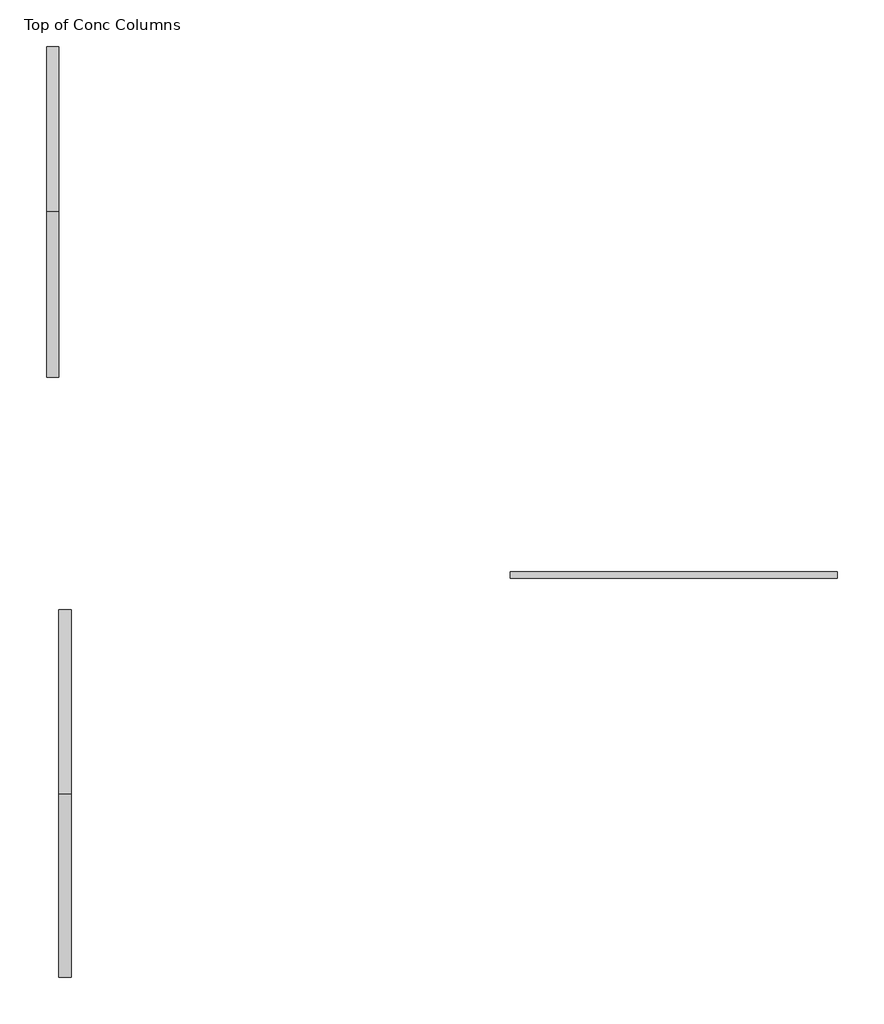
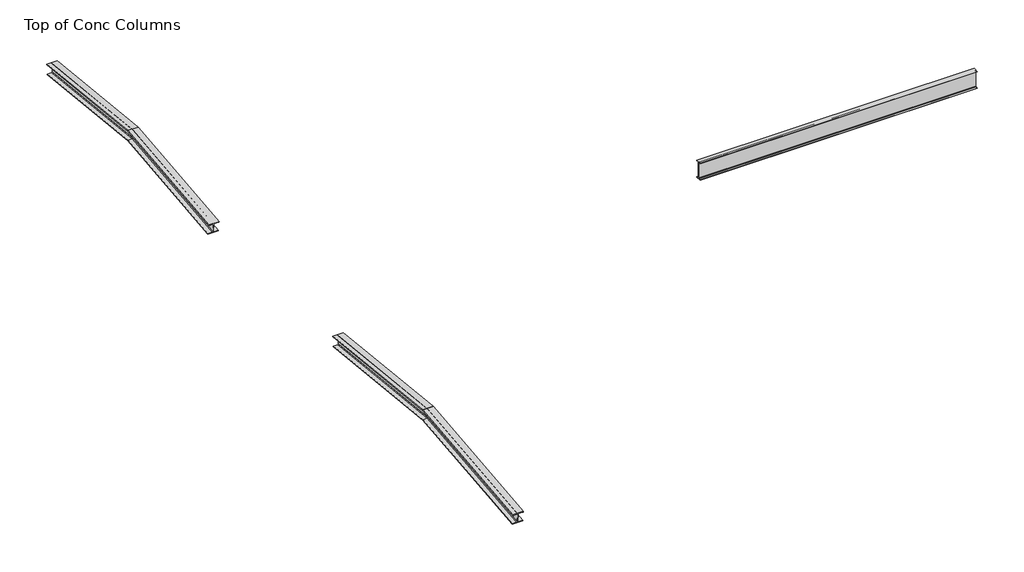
# One storey: 5 beams.
"""IFC4 building model written with IfcOpenShell, lengths in millimetres."""

from ifc_helpers import new_model, si_unit, frame, origin, place, context, project, spatial, polyline, circle_curve, ellipse_curve, transform, mapped, element, save
from ifc_brep_helpers import plane_surface, revolved_surface, advanced_brep
from components import w_wide_flange_w21x44_ac43757c

model = new_model("IFC4")

# Units and contexts
model_context = context("Model", 3, world=origin())
ifc_project = project(units=[si_unit("LENGTHUNIT", "METRE", prefix="MILLI")], contexts=[model_context])

# Site, building, storey
site = spatial("IfcSite", under=ifc_project)
building = spatial("IfcBuilding", under=site)
storey = spatial("IfcBuildingStorey", under=building, Name="Top of Conc Columns", Elevation=33782.0)

# Beams
placement = place(None, origin())
element("IfcBeam", 1, ObjectType="W-Wide Flange : W12X79", at=placement, inside=storey, context=model_context, shape_type="AdvancedBrep", body=[
    advanced_brep(
    [(-21755.4154607, 20969.2190095, 33178.8039345), (-21630.3204607, 20969.2190095, 33178.8039345), (-21607.7144607, 20971.5967656, 33201.2845375), (-21607.7144607, 20996.0422355, 33432.4053438), (-21630.3204607, 20998.4199915, 33454.8859468), (-21755.4154607, 20998.4199915, 33454.8859468), (-21755.4154607, 21000.383644, 33473.4513887), (-21448.0754607, 21000.383644, 33473.4513887), (-21448.0754607, 20998.4199915, 33454.8859468), (-21573.1704607, 20998.4199915, 33454.8859468), (-21595.7764607, 20996.0422355, 33432.4053438), (-21595.7764607, 20971.5967656, 33201.2845375), (-21573.1704607, 20969.2190095, 33178.8039345), (-21448.0754607, 20969.2190095, 33178.8039345), (-21448.0754607, 20967.255357, 33160.2384927), (-21755.4154607, 20967.255357, 33160.2384927), (-21755.4154607, 16882.4695005, 33611.0562864), (-21630.3204607, 16882.4695005, 33611.0562864), (-21607.7144607, 16882.4695005, 33633.7883829), (-21607.7144607, 16882.4695005, 33867.4947677), (-21630.3204607, 16882.4695005, 33890.2268642), (-21755.4154607, 16882.4695005, 33890.2268642), (-21755.4154607, 16882.4695005, 33909.0), (-21448.0754607, 16882.4695005, 33909.0), (-21448.0754607, 16882.4695005, 33890.2268642), (-21573.1704607, 16882.4695005, 33890.2268642), (-21595.7764607, 16882.4695005, 33867.4947677), (-21595.7764607, 16882.4695005, 33633.7883829), (-21573.1704607, 16882.4695005, 33611.0562864), (-21448.0754607, 16882.4695005, 33611.0562864), (-21448.0754607, 16882.4695005, 33592.2831506), (-21755.4154607, 16882.4695005, 33592.2831506)],
    [
        (0, 1),
        (1, 2, circle_curve(frame((-21630.3204607, 20971.5967656, 33201.2845375), z_axis=(0.0, -0.9944529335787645, 0.10518252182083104), x_axis=(1.0, 0.0, 0.0)), 22.606)),
        (2, 3),
        (3, 4, circle_curve(frame((-21630.3204607, 20996.0422355, 33432.4053438), z_axis=(0.0, -0.9944529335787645, 0.10518252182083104), x_axis=(1.0, 0.0, 0.0)), 22.606)),
        (4, 5),
        (5, 6),
        (6, 7),
        (7, 8),
        (8, 9),
        (9, 10, circle_curve(frame((-21573.1704607, 20996.0422355, 33432.4053438), z_axis=(0.0, -0.9944529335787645, 0.10518252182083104), x_axis=(1.0, 0.0, 0.0)), 22.606)),
        (10, 11),
        (11, 12, circle_curve(frame((-21573.1704607, 20971.5967656, 33201.2845375), z_axis=(0.0, -0.9944529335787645, 0.10518252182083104), x_axis=(1.0, 0.0, 0.0)), 22.606)),
        (12, 13),
        (13, 14),
        (14, 15),
        (15, 0),
        (0, 16),
        (16, 17),
        (17, 1),
        (17, 18, ellipse_curve(frame((-21630.3204607, 16882.4695005, 33633.7883829), z_axis=(0.0, -1.0, 0.0), x_axis=(0.0, 0.0, 0.9999999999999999)), 22.7320964, 22.606)),
        (18, 2),
        (18, 19),
        (19, 3),
        (19, 20, ellipse_curve(frame((-21630.3204607, 16882.4695005, 33867.4947677), z_axis=(0.0, -1.0, 0.0), x_axis=(0.0, 0.0, 0.9999999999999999)), 22.7320964, 22.606)),
        (20, 4),
        (20, 21),
        (21, 5),
        (21, 22),
        (22, 6),
        (22, 23),
        (23, 7),
        (23, 24),
        (24, 8),
        (24, 25),
        (25, 9),
        (25, 26, ellipse_curve(frame((-21573.1704607, 16882.4695005, 33867.4947677), z_axis=(0.0, -1.0, 0.0), x_axis=(0.0, 0.0, 0.9999999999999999)), 22.7320964, 22.606)),
        (26, 10),
        (26, 27),
        (27, 11),
        (27, 28, ellipse_curve(frame((-21573.1704607, 16882.4695005, 33633.7883829), z_axis=(0.0, -1.0, 0.0), x_axis=(0.0, 0.0, 0.9999999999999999)), 22.7320964, 22.606)),
        (28, 12),
        (28, 29),
        (29, 13),
        (29, 30),
        (30, 14),
        (30, 31),
        (31, 15),
        (31, 16),
    ],
    [
        plane_surface(frame((-21601.7454607, 20983.8195005, 33316.8449407), z_axis=(0.0, 0.9944529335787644, -0.10518252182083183), x_axis=(0.0, 0.10518252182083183, 0.9944529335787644))),
        plane_surface(frame((-21755.4154607, 20969.2190095, 33178.8039345), z_axis=(0.0, 0.10518252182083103, 0.9944529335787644), x_axis=(0.0, -0.9944529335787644, 0.10518252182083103))),
        revolved_surface(polyline([(-21607.7144607, 16880.091744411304, 33634.03987627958), (-21607.7144607, 20971.5967656, 33201.2845375)]), (-21630.3204607, 20971.5967656, 33201.2845375), (0.0, -0.9944529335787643, 0.10518252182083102)),
        plane_surface(frame((-21607.7144607, 20971.5967656, 33201.2845375), z_axis=(-1.0, 0.0, 0.0), x_axis=(0.0, -0.9944529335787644, 0.10518252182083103))),
        revolved_surface(polyline([(-21607.7144607, 16880.09174440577, 33867.74626112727), (-21607.7144607, 20996.0422355, 33432.4053438)]), (-21630.3204607, 20996.0422355, 33432.4053438), (0.0, -0.9944529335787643, 0.10518252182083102)),
        plane_surface(frame((-21630.3204607, 20998.4199915, 33454.8859468), z_axis=(0.0, -0.10518252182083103, -0.9944529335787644), x_axis=(0.0, -0.9944529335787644, 0.10518252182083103))),
        plane_surface(frame((-21755.4154607, 20998.4199915, 33454.8859468), z_axis=(-1.0, 0.0, 0.0), x_axis=(0.0, -0.9944529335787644, 0.10518252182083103))),
        plane_surface(frame((-21755.4154607, 21000.383644, 33473.4513887), z_axis=(0.0, 0.10518252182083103, 0.9944529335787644), x_axis=(0.0, -0.9944529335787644, 0.10518252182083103))),
        plane_surface(frame((-21448.0754607, 21000.383644, 33473.4513887), z_axis=(1.0, 0.0, 0.0), x_axis=(0.0, -0.9944529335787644, 0.10518252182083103))),
        plane_surface(frame((-21448.0754607, 20998.4199915, 33454.8859468), z_axis=(0.0, -0.10518252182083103, -0.9944529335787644), x_axis=(0.0, -0.9944529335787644, 0.10518252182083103))),
        revolved_surface(polyline([(-21550.5644607, 16880.09174440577, 33867.74626112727), (-21550.5644607, 20996.0422355, 33432.4053438)]), (-21573.1704607, 20996.0422355, 33432.4053438), (0.0, -0.9944529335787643, 0.10518252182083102)),
        plane_surface(frame((-21595.7764607, 20996.0422355, 33432.4053438), z_axis=(1.0, 0.0, 0.0), x_axis=(0.0, -0.9944529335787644, 0.10518252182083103))),
        revolved_surface(polyline([(-21550.5644607, 16880.091744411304, 33634.03987627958), (-21550.5644607, 20971.5967656, 33201.2845375)]), (-21573.1704607, 20971.5967656, 33201.2845375), (0.0, -0.9944529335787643, 0.10518252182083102)),
        plane_surface(frame((-21573.1704607, 20969.2190095, 33178.8039345), z_axis=(0.0, 0.10518252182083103, 0.9944529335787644), x_axis=(0.0, -0.9944529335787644, 0.10518252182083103))),
        plane_surface(frame((-21448.0754607, 20969.2190095, 33178.8039345), z_axis=(1.0, 0.0, 0.0), x_axis=(0.0, -0.9944529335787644, 0.10518252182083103))),
        plane_surface(frame((-21448.0754607, 20967.255357, 33160.2384927), z_axis=(0.0, -0.10518252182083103, -0.9944529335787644), x_axis=(0.0, -0.9944529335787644, 0.10518252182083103))),
        plane_surface(frame((-21755.4154607, 20967.255357, 33160.2384927), z_axis=(-1.0, 0.0, 0.0), x_axis=(0.0, -0.9944529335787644, 0.10518252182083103))),
        plane_surface(frame((-21601.7454607, 16882.4695005, 33592.2831506), z_axis=(0.0, -1.0, 0.0), x_axis=(0.0, 0.0, 1.0))),
    ],
    [
        (0, [[1, 2, 3, 4, 5, 6, 7, 8, 9, 10, 11, 12, 13, 14, 15, 16]]),
        (1, [[-1, 17, 18, 19]]),
        (2, [[-2, -19, 20, 21]]),
        (3, [[-3, -21, 22, 23]]),
        (4, [[-4, -23, 24, 25]]),
        (5, [[-5, -25, 26, 27]]),
        (6, [[-6, -27, 28, 29]]),
        (7, [[-7, -29, 30, 31]]),
        (8, [[-8, -31, 32, 33]]),
        (9, [[-9, -33, 34, 35]]),
        (10, [[-10, -35, 36, 37]]),
        (11, [[-11, -37, 38, 39]]),
        (12, [[-12, -39, 40, 41]]),
        (13, [[-13, -41, 42, 43]]),
        (14, [[-14, -43, 44, 45]]),
        (15, [[-15, -45, 46, 47]]),
        (16, [[-16, -47, 48, -17]]),
        (17, [[-48, -46, -44, -42, -40, -38, -36, -34, -32, -30, -28, -26, -24, -22, -20, -18]]),
    ],
),
])
element("IfcBeam", 2, ObjectType="W-Wide Flange : W12X79", at=placement, inside=storey, context=model_context, shape_type="AdvancedBrep", body=[
    advanced_brep(
    [(-21755.4154607, 12795.7199915, 33178.8039345), (-21755.4154607, 12797.683644, 33160.2384927), (-21448.0754607, 12797.683644, 33160.2384927), (-21448.0754607, 12795.7199915, 33178.8039345), (-21573.1704607, 12795.7199915, 33178.8039345), (-21595.7764607, 12793.3422355, 33201.2845375), (-21595.7764607, 12768.8967656, 33432.4053438), (-21573.1704607, 12766.5190095, 33454.8859468), (-21448.0754607, 12766.5190095, 33454.8859468), (-21448.0754607, 12764.555357, 33473.4513887), (-21755.4154607, 12764.555357, 33473.4513887), (-21755.4154607, 12766.5190095, 33454.8859468), (-21630.3204607, 12766.5190095, 33454.8859468), (-21607.7144607, 12768.8967656, 33432.4053438), (-21607.7144607, 12793.3422355, 33201.2845375), (-21630.3204607, 12795.7199915, 33178.8039345), (-21630.3204607, 16882.4695005, 33611.0562864), (-21755.4154607, 16882.4695005, 33611.0562864), (-21607.7144607, 16882.4695005, 33633.7883829), (-21607.7144607, 16882.4695005, 33867.4947677), (-21630.3204607, 16882.4695005, 33890.2268642), (-21755.4154607, 16882.4695005, 33890.2268642), (-21755.4154607, 16882.4695005, 33909.0), (-21448.0754607, 16882.4695005, 33909.0), (-21448.0754607, 16882.4695005, 33890.2268642), (-21573.1704607, 16882.4695005, 33890.2268642), (-21595.7764607, 16882.4695005, 33867.4947677), (-21595.7764607, 16882.4695005, 33633.7883829), (-21573.1704607, 16882.4695005, 33611.0562864), (-21448.0754607, 16882.4695005, 33611.0562864), (-21448.0754607, 16882.4695005, 33592.2831506), (-21755.4154607, 16882.4695005, 33592.2831506)],
    [
        (0, 1),
        (1, 2),
        (2, 3),
        (3, 4),
        (4, 5, circle_curve(frame((-21573.1704607, 12793.3422355, 33201.2845375), z_axis=(0.0, 0.9944529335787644, 0.10518252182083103), x_axis=(1.0, 0.0, 0.0)), 22.606)),
        (5, 6),
        (6, 7, circle_curve(frame((-21573.1704607, 12768.8967656, 33432.4053438), z_axis=(0.0, 0.9944529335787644, 0.10518252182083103), x_axis=(1.0, 0.0, 0.0)), 22.606)),
        (7, 8),
        (8, 9),
        (9, 10),
        (10, 11),
        (11, 12),
        (12, 13, circle_curve(frame((-21630.3204607, 12768.8967656, 33432.4053438), z_axis=(0.0, 0.9944529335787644, 0.10518252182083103), x_axis=(1.0, 0.0, 0.0)), 22.606)),
        (13, 14),
        (14, 15, circle_curve(frame((-21630.3204607, 12793.3422355, 33201.2845375), z_axis=(0.0, 0.9944529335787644, 0.10518252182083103), x_axis=(1.0, 0.0, 0.0)), 22.606)),
        (15, 0),
        (15, 16),
        (16, 17),
        (17, 0),
        (14, 18),
        (18, 16, ellipse_curve(frame((-21630.3204607, 16882.4695005, 33633.7883829), z_axis=(0.0, 1.0, 0.0), x_axis=(0.0, 0.0, 1.0)), 22.7320964, 22.606)),
        (13, 19),
        (19, 18),
        (12, 20),
        (20, 19, ellipse_curve(frame((-21630.3204607, 16882.4695005, 33867.4947677), z_axis=(0.0, 1.0, 0.0), x_axis=(0.0, 0.0, 1.0)), 22.7320964, 22.606)),
        (11, 21),
        (21, 20),
        (10, 22),
        (22, 21),
        (9, 23),
        (23, 22),
        (8, 24),
        (24, 23),
        (7, 25),
        (25, 24),
        (6, 26),
        (26, 25, ellipse_curve(frame((-21573.1704607, 16882.4695005, 33867.4947677), z_axis=(0.0, 1.0, 0.0), x_axis=(0.0, 0.0, 1.0)), 22.7320964, 22.606)),
        (5, 27),
        (27, 26),
        (4, 28),
        (28, 27, ellipse_curve(frame((-21573.1704607, 16882.4695005, 33633.7883829), z_axis=(0.0, 1.0, 0.0), x_axis=(0.0, 0.0, 1.0)), 22.7320964, 22.606)),
        (3, 29),
        (29, 28),
        (2, 30),
        (30, 29),
        (1, 31),
        (31, 30),
        (17, 31),
    ],
    [
        plane_surface(frame((-21601.7454607, 12781.1195005, 33316.8449407), z_axis=(0.0, -0.9944529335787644, -0.10518252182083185), x_axis=(0.0, -0.10518252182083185, 0.9944529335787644))),
        plane_surface(frame((-21755.4154607, 12795.7199915, 33178.8039345), z_axis=(0.0, -0.10518252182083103, 0.9944529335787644), x_axis=(0.0, 0.9944529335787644, 0.10518252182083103))),
        revolved_surface(polyline([(-21607.7144607, 16884.847256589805, 33634.03987626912), (-21607.7144607, 12793.342235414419, 33201.28453749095)]), (-21630.3204607, 12793.3422355, 33201.2845375), (0.0, 0.9944529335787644, 0.10518252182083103)),
        plane_surface(frame((-21607.7144607, 12793.3422355, 33201.2845375), z_axis=(-1.0, 0.0, 0.0), x_axis=(0.0, 0.9944529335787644, 0.10518252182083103))),
        revolved_surface(polyline([(-21607.7144607, 16884.847256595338, 33867.746261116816), (-21607.7144607, 12768.896765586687, 33432.405343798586)]), (-21630.3204607, 12768.8967656, 33432.4053438), (0.0, 0.9944529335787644, 0.10518252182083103)),
        plane_surface(frame((-21630.3204607, 12766.5190095, 33454.8859468), z_axis=(0.0, 0.10518252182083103, -0.9944529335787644), x_axis=(0.0, 0.9944529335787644, 0.10518252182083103))),
        plane_surface(frame((-21755.4154607, 12766.5190095, 33454.8859468), z_axis=(-1.0, 0.0, 0.0), x_axis=(0.0, 0.9944529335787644, 0.10518252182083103))),
        plane_surface(frame((-21755.4154607, 12764.555357, 33473.4513887), z_axis=(0.0, -0.10518252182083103, 0.9944529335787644), x_axis=(0.0, 0.9944529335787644, 0.10518252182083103))),
        plane_surface(frame((-21448.0754607, 12764.555357, 33473.4513887), z_axis=(1.0, 0.0, 0.0), x_axis=(0.0, 0.9944529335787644, 0.10518252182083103))),
        plane_surface(frame((-21448.0754607, 12766.5190095, 33454.8859468), z_axis=(0.0, 0.10518252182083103, -0.9944529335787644), x_axis=(0.0, 0.9944529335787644, 0.10518252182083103))),
        revolved_surface(polyline([(-21550.5644607, 16884.847256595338, 33867.746261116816), (-21550.5644607, 12768.896765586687, 33432.405343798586)]), (-21573.1704607, 12768.8967656, 33432.4053438), (0.0, 0.9944529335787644, 0.10518252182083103)),
        plane_surface(frame((-21595.7764607, 12768.8967656, 33432.4053438), z_axis=(1.0, 0.0, 0.0), x_axis=(0.0, 0.9944529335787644, 0.10518252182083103))),
        revolved_surface(polyline([(-21550.5644607, 16884.847256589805, 33634.03987626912), (-21550.5644607, 12793.342235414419, 33201.28453749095)]), (-21573.1704607, 12793.3422355, 33201.2845375), (0.0, 0.9944529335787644, 0.10518252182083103)),
        plane_surface(frame((-21573.1704607, 12795.7199915, 33178.8039345), z_axis=(0.0, -0.10518252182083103, 0.9944529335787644), x_axis=(0.0, 0.9944529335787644, 0.10518252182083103))),
        plane_surface(frame((-21448.0754607, 12795.7199915, 33178.8039345), z_axis=(1.0, 0.0, 0.0), x_axis=(0.0, 0.9944529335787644, 0.10518252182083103))),
        plane_surface(frame((-21448.0754607, 12797.683644, 33160.2384927), z_axis=(0.0, 0.10518252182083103, -0.9944529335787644), x_axis=(0.0, 0.9944529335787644, 0.10518252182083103))),
        plane_surface(frame((-21755.4154607, 12797.683644, 33160.2384927), z_axis=(-1.0, 0.0, 0.0), x_axis=(0.0, 0.9944529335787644, 0.10518252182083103))),
        plane_surface(frame((-21601.7454607, 16882.4695005, 33592.2831506), z_axis=(0.0, 1.0, 0.0), x_axis=(0.0, 0.0, -1.0))),
    ],
    [
        (0, [[1, 2, 3, 4, 5, 6, 7, 8, 9, 10, 11, 12, 13, 14, 15, 16]]),
        (1, [[17, 18, 19, -16]]),
        (2, [[20, 21, -17, -15]]),
        (3, [[22, 23, -20, -14]]),
        (4, [[24, 25, -22, -13]]),
        (5, [[26, 27, -24, -12]]),
        (6, [[28, 29, -26, -11]]),
        (7, [[30, 31, -28, -10]]),
        (8, [[32, 33, -30, -9]]),
        (9, [[34, 35, -32, -8]]),
        (10, [[36, 37, -34, -7]]),
        (11, [[38, 39, -36, -6]]),
        (12, [[40, 41, -38, -5]]),
        (13, [[42, 43, -40, -4]]),
        (14, [[44, 45, -42, -3]]),
        (15, [[46, 47, -44, -2]]),
        (16, [[-19, 48, -46, -1]]),
        (17, [[-18, -21, -23, -25, -27, -29, -31, -33, -35, -37, -39, -41, -43, -45, -47, -48]]),
    ],
),
])
element("IfcBeam", 3, ObjectType="W-Wide Flange : W12X79", at=placement, inside=storey, context=model_context, shape_type="AdvancedBrep", body=[
    advanced_brep(
    [(-21450.6154607, 6948.4190095, 33130.4462422), (-21325.5204607, 6948.4190095, 33130.4462422), (-21302.9144607, 6950.7967656, 33152.9268452), (-21302.9144607, 6975.2422355, 33384.0476515), (-21325.5204607, 6977.6199915, 33406.5282545), (-21450.6154607, 6977.6199915, 33406.5282545), (-21450.6154607, 6979.583644, 33425.0936964), (-21143.2754607, 6979.583644, 33425.0936964), (-21143.2754607, 6977.6199915, 33406.5282545), (-21268.3704607, 6977.6199915, 33406.5282545), (-21290.9764607, 6975.2422355, 33384.0476515), (-21290.9764607, 6950.7967656, 33152.9268452), (-21268.3704607, 6948.4190095, 33130.4462422), (-21143.2754607, 6948.4190095, 33130.4462422), (-21143.2754607, 6946.455357, 33111.8808004), (-21450.6154607, 6946.455357, 33111.8808004), (-21450.6154607, 2404.4695005, 33611.0562864), (-21325.5204607, 2404.4695005, 33611.0562864), (-21302.9144607, 2404.4695005, 33633.7883829), (-21302.9144607, 2404.4695005, 33867.4947677), (-21325.5204607, 2404.4695005, 33890.2268642), (-21450.6154607, 2404.4695005, 33890.2268642), (-21450.6154607, 2404.4695005, 33909.0), (-21143.2754607, 2404.4695005, 33909.0), (-21143.2754607, 2404.4695005, 33890.2268642), (-21268.3704607, 2404.4695005, 33890.2268642), (-21290.9764607, 2404.4695005, 33867.4947677), (-21290.9764607, 2404.4695005, 33633.7883829), (-21268.3704607, 2404.4695005, 33611.0562864), (-21143.2754607, 2404.4695005, 33611.0562864), (-21143.2754607, 2404.4695005, 33592.2831506), (-21450.6154607, 2404.4695005, 33592.2831506)],
    [
        (0, 1),
        (1, 2, circle_curve(frame((-21325.5204607, 6950.7967656, 33152.9268452), z_axis=(0.0, -0.9944529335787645, 0.10518252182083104), x_axis=(0.9999999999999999, 0.0, 0.0)), 22.606)),
        (2, 3),
        (3, 4, circle_curve(frame((-21325.5204607, 6975.2422355, 33384.0476515), z_axis=(0.0, -0.9944529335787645, 0.10518252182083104), x_axis=(0.0, 0.10518252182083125, 0.9944529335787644)), 22.606)),
        (4, 5),
        (5, 6),
        (6, 7),
        (7, 8),
        (8, 9),
        (9, 10, circle_curve(frame((-21268.3704607, 6975.2422355, 33384.0476515), z_axis=(0.0, -0.9944529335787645, 0.10518252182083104), x_axis=(-0.9999999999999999, 0.0, 0.0)), 22.606)),
        (10, 11),
        (11, 12, circle_curve(frame((-21268.3704607, 6950.7967656, 33152.9268452), z_axis=(0.0, -0.9944529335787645, 0.10518252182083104), x_axis=(0.0, -0.10518252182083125, -0.9944529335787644)), 22.606)),
        (12, 13),
        (13, 14),
        (14, 15),
        (15, 0),
        (0, 16),
        (16, 17),
        (17, 1),
        (17, 18, ellipse_curve(frame((-21325.5204607, 2404.4695005, 33633.7883829), z_axis=(0.0, -1.0, 0.0), x_axis=(0.0, 0.0, 0.9999999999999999)), 22.7320964, 22.606)),
        (18, 2),
        (18, 19),
        (19, 3),
        (19, 20, ellipse_curve(frame((-21325.5204607, 2404.4695005, 33867.4947677), z_axis=(0.0, -1.0, 0.0), x_axis=(0.0, 0.0, 0.9999999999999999)), 22.7320964, 22.606)),
        (20, 4),
        (20, 21),
        (21, 5),
        (21, 22),
        (22, 6),
        (22, 23),
        (23, 7),
        (23, 24),
        (24, 8),
        (24, 25),
        (25, 9),
        (25, 26, ellipse_curve(frame((-21268.3704607, 2404.4695005, 33867.4947677), z_axis=(0.0, -1.0, 0.0), x_axis=(0.0, 0.0, 0.9999999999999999)), 22.7320964, 22.606)),
        (26, 10),
        (26, 27),
        (27, 11),
        (27, 28, ellipse_curve(frame((-21268.3704607, 2404.4695005, 33633.7883829), z_axis=(0.0, -1.0, 0.0), x_axis=(0.0, 0.0, 0.9999999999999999)), 22.7320964, 22.606)),
        (28, 12),
        (28, 29),
        (29, 13),
        (29, 30),
        (30, 14),
        (30, 31),
        (31, 15),
        (31, 16),
    ],
    [
        plane_surface(frame((-21296.9454607, 6963.0195005, 33268.4872484), z_axis=(0.0, 0.9944529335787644, -0.10518252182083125), x_axis=(0.0, 0.10518252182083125, 0.9944529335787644))),
        plane_surface(frame((-21388.0679607, 6948.4190095, 33130.4462422), z_axis=(0.0, 0.10518252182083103, 0.9944529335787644), x_axis=(1.0, 0.0, 0.0))),
        revolved_surface(polyline([(-21302.9144607, 2402.091744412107, 33634.039876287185), (-21302.9144607, 6950.7967656, 33152.9268452)]), (-21325.5204607, 6950.7967656, 33152.9268452), (0.0, -0.9944529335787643, 0.10518252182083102)),
        plane_surface(frame((-21302.9144607, 6963.0195005, 33268.4872484), z_axis=(-1.0, 0.0, 0.0), x_axis=(0.0, 0.10518252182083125, 0.9944529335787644))),
        revolved_surface(polyline([(-21325.5204607, 2404.4695004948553, 33890.226864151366), (-21325.5204607, 6977.619991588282, 33406.52825451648)]), (-21325.5204607, 6975.2422355, 33384.0476515), (0.0, -0.9944529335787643, 0.10518252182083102)),
        plane_surface(frame((-21388.0679607, 6977.6199915, 33406.5282545), z_axis=(0.0, -0.10518252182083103, -0.9944529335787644), x_axis=(-1.0, 0.0, 0.0))),
        plane_surface(frame((-21450.6154607, 6978.6018178, 33415.8109754), z_axis=(-1.0, 0.0, 0.0), x_axis=(0.0, 0.10518252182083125, 0.9944529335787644))),
        plane_surface(frame((-21296.9454607, 6979.583644, 33425.0936964), z_axis=(0.0, 0.10518252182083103, 0.9944529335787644), x_axis=(1.0, 0.0, 0.0))),
        plane_surface(frame((-21143.2754607, 6978.6018178, 33415.8109754), z_axis=(1.0, 0.0, 0.0), x_axis=(0.0, -0.10518252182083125, -0.9944529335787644))),
        plane_surface(frame((-21205.8229607, 6977.6199915, 33406.5282545), z_axis=(0.0, -0.10518252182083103, -0.9944529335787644), x_axis=(-1.0, 0.0, 0.0))),
        revolved_surface(polyline([(-21290.9764607, 2402.0917444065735, 33867.74626113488), (-21290.9764607, 6975.2422355, 33384.0476515)]), (-21268.3704607, 6975.2422355, 33384.0476515), (0.0, -0.9944529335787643, 0.10518252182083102)),
        plane_surface(frame((-21290.9764607, 6963.0195005, 33268.4872484), z_axis=(1.0, 0.0, 0.0), x_axis=(0.0, -0.10518252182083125, -0.9944529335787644))),
        revolved_surface(polyline([(-21268.3704607, 2399.713988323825, 33611.5592732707), (-21268.3704607, 6948.419009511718, 33130.44624218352)]), (-21268.3704607, 6950.7967656, 33152.9268452), (0.0, -0.9944529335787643, 0.10518252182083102)),
        plane_surface(frame((-21205.8229607, 6948.4190095, 33130.4462422), z_axis=(0.0, 0.10518252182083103, 0.9944529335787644), x_axis=(1.0, 0.0, 0.0))),
        plane_surface(frame((-21143.2754607, 6947.4371832, 33121.1635213), z_axis=(1.0, 0.0, 0.0), x_axis=(0.0, -0.10518252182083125, -0.9944529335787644))),
        plane_surface(frame((-21296.9454607, 6946.455357, 33111.8808004), z_axis=(0.0, -0.10518252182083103, -0.9944529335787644), x_axis=(-1.0, 0.0, 0.0))),
        plane_surface(frame((-21450.6154607, 6947.4371832, 33121.1635213), z_axis=(-1.0, 0.0, 0.0), x_axis=(0.0, 0.10518252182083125, 0.9944529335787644))),
        plane_surface(frame((-21296.9454607, 2404.4695005, 33592.2831506), z_axis=(0.0, -1.0, 0.0), x_axis=(0.0, 0.0, 1.0))),
    ],
    [
        (0, [[1, 2, 3, 4, 5, 6, 7, 8, 9, 10, 11, 12, 13, 14, 15, 16]]),
        (1, [[-1, 17, 18, 19]]),
        (2, [[-2, -19, 20, 21]]),
        (3, [[-3, -21, 22, 23]]),
        (4, [[-4, -23, 24, 25]]),
        (5, [[-5, -25, 26, 27]]),
        (6, [[-6, -27, 28, 29]]),
        (7, [[-7, -29, 30, 31]]),
        (8, [[-8, -31, 32, 33]]),
        (9, [[-9, -33, 34, 35]]),
        (10, [[-10, -35, 36, 37]]),
        (11, [[-11, -37, 38, 39]]),
        (12, [[-12, -39, 40, 41]]),
        (13, [[-13, -41, 42, 43]]),
        (14, [[-14, -43, 44, 45]]),
        (15, [[-15, -45, 46, 47]]),
        (16, [[-16, -47, 48, -17]]),
        (17, [[-48, -46, -44, -42, -40, -38, -36, -34, -32, -30, -28, -26, -24, -22, -20, -18]]),
    ],
),
])
element("IfcBeam", 4, ObjectType="W-Wide Flange : W12X79", at=placement, inside=storey, context=model_context, shape_type="AdvancedBrep", body=[
    advanced_brep(
    [(-21450.6154607, -2139.4800085, 33130.4462422), (-21450.6154607, -2137.516356, 33111.8808004), (-21143.2754607, -2137.516356, 33111.8808004), (-21143.2754607, -2139.4800085, 33130.4462422), (-21268.3704607, -2139.4800085, 33130.4462422), (-21290.9764607, -2141.8577645, 33152.9268452), (-21290.9764607, -2166.3032344, 33384.0476515), (-21268.3704607, -2168.6809905, 33406.5282545), (-21143.2754607, -2168.6809905, 33406.5282545), (-21143.2754607, -2170.644643, 33425.0936964), (-21450.6154607, -2170.644643, 33425.0936964), (-21450.6154607, -2168.6809905, 33406.5282545), (-21325.5204607, -2168.6809905, 33406.5282545), (-21302.9144607, -2166.3032344, 33384.0476515), (-21302.9144607, -2141.8577645, 33152.9268452), (-21325.5204607, -2139.4800085, 33130.4462422), (-21325.5204607, 2404.4695005, 33611.0562864), (-21450.6154607, 2404.4695005, 33611.0562864), (-21302.9144607, 2404.4695005, 33633.7883829), (-21302.9144607, 2404.4695005, 33867.4947677), (-21325.5204607, 2404.4695005, 33890.2268642), (-21450.6154607, 2404.4695005, 33890.2268642), (-21450.6154607, 2404.4695005, 33909.0), (-21143.2754607, 2404.4695005, 33909.0), (-21143.2754607, 2404.4695005, 33890.2268642), (-21268.3704607, 2404.4695005, 33890.2268642), (-21290.9764607, 2404.4695005, 33867.4947677), (-21290.9764607, 2404.4695005, 33633.7883829), (-21268.3704607, 2404.4695005, 33611.0562864), (-21143.2754607, 2404.4695005, 33611.0562864), (-21143.2754607, 2404.4695005, 33592.2831506), (-21450.6154607, 2404.4695005, 33592.2831506)],
    [
        (0, 1),
        (1, 2),
        (2, 3),
        (3, 4),
        (4, 5, circle_curve(frame((-21268.3704607, -2141.8577645, 33152.9268452), z_axis=(0.0, 0.9944529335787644, 0.10518252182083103), x_axis=(0.0, 0.1051825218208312, -0.9944529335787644)), 22.606)),
        (5, 6),
        (6, 7, circle_curve(frame((-21268.3704607, -2166.3032344, 33384.0476515), z_axis=(0.0, 0.9944529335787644, 0.10518252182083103), x_axis=(-1.0, 0.0, 0.0)), 22.606)),
        (7, 8),
        (8, 9),
        (9, 10),
        (10, 11),
        (11, 12),
        (12, 13, circle_curve(frame((-21325.5204607, -2166.3032344, 33384.0476515), z_axis=(0.0, 0.9944529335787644, 0.10518252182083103), x_axis=(0.0, -0.1051825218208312, 0.9944529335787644)), 22.606)),
        (13, 14),
        (14, 15, circle_curve(frame((-21325.5204607, -2141.8577645, 33152.9268452), z_axis=(0.0, 0.9944529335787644, 0.10518252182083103), x_axis=(1.0, 0.0, 0.0)), 22.606)),
        (15, 0),
        (15, 16),
        (16, 17),
        (17, 0),
        (14, 18),
        (18, 16, ellipse_curve(frame((-21325.5204607, 2404.4695005, 33633.7883829), z_axis=(0.0, 1.0, 0.0), x_axis=(0.0, 0.0, 1.0)), 22.7320964, 22.606)),
        (13, 19),
        (19, 18),
        (12, 20),
        (20, 19, ellipse_curve(frame((-21325.5204607, 2404.4695005, 33867.4947677), z_axis=(0.0, 1.0, 0.0), x_axis=(0.0, 0.0, 1.0)), 22.7320964, 22.606)),
        (11, 21),
        (21, 20),
        (10, 22),
        (22, 21),
        (9, 23),
        (23, 22),
        (8, 24),
        (24, 23),
        (7, 25),
        (25, 24),
        (6, 26),
        (26, 25, ellipse_curve(frame((-21268.3704607, 2404.4695005, 33867.4947677), z_axis=(0.0, 1.0, 0.0), x_axis=(0.0, 0.0, 1.0)), 22.7320964, 22.606)),
        (5, 27),
        (27, 26),
        (4, 28),
        (28, 27, ellipse_curve(frame((-21268.3704607, 2404.4695005, 33633.7883829), z_axis=(0.0, 1.0, 0.0), x_axis=(0.0, 0.0, 1.0)), 22.7320964, 22.606)),
        (3, 29),
        (29, 28),
        (2, 30),
        (30, 29),
        (1, 31),
        (31, 30),
        (17, 31),
    ],
    [
        plane_surface(frame((-21296.9454607, -2154.0804995, 33268.4872484), z_axis=(0.0, -0.9944529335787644, -0.1051825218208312), x_axis=(0.0, -0.1051825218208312, 0.9944529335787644))),
        plane_surface(frame((-21388.0679607, -2139.4800085, 33130.4462422), z_axis=(0.0, -0.10518252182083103, 0.9944529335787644), x_axis=(1.0, 0.0, 0.0))),
        revolved_surface(polyline([(-21302.9144607, 2406.847256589, 33634.03987627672), (-21302.9144607, -2141.8577645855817, 33152.92684519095)]), (-21325.5204607, -2141.8577645, 33152.9268452), (0.0, 0.9944529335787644, 0.10518252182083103)),
        plane_surface(frame((-21302.9144607, -2154.0804995, 33268.4872484), z_axis=(-1.0, 0.0, 0.0), x_axis=(0.0, -0.1051825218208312, 0.9944529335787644))),
        revolved_surface(polyline([(-21325.5204607, 2404.469500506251, 33890.2268641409), (-21325.5204607, -2168.680990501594, 33406.52825451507)]), (-21325.5204607, -2166.3032344, 33384.0476515), (0.0, 0.9944529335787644, 0.10518252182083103)),
        plane_surface(frame((-21388.0679607, -2168.6809905, 33406.5282545), z_axis=(0.0, 0.10518252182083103, -0.9944529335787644), x_axis=(-1.0, 0.0, 0.0))),
        plane_surface(frame((-21450.6154607, -2169.6628168, 33415.8109754), z_axis=(-1.0, 0.0, 0.0), x_axis=(0.0, -0.1051825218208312, 0.9944529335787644))),
        plane_surface(frame((-21296.9454607, -2170.644643, 33425.0936964), z_axis=(0.0, -0.10518252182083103, 0.9944529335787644), x_axis=(1.0, 0.0, 0.0))),
        plane_surface(frame((-21143.2754607, -2169.6628168, 33415.8109754), z_axis=(1.0, 0.0, 0.0), x_axis=(0.0, 0.1051825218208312, -0.9944529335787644))),
        plane_surface(frame((-21205.8229607, -2168.6809905, 33406.5282545), z_axis=(0.0, 0.10518252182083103, -0.9944529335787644), x_axis=(-1.0, 0.0, 0.0))),
        revolved_surface(polyline([(-21290.9764607, 2406.8472565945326, 33867.74626112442), (-21290.9764607, -2166.303234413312, 33384.047651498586)]), (-21268.3704607, -2166.3032344, 33384.0476515), (0.0, 0.9944529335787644, 0.10518252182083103)),
        plane_surface(frame((-21290.9764607, -2154.0804995, 33268.4872484), z_axis=(1.0, 0.0, 0.0), x_axis=(0.0, 0.1051825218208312, -0.9944529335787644))),
        revolved_surface(polyline([(-21268.3704607, 2409.225012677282, 33611.55927326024), (-21268.3704607, -2139.4800084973, 33130.44624217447)]), (-21268.3704607, -2141.8577645, 33152.9268452), (0.0, 0.9944529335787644, 0.10518252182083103)),
        plane_surface(frame((-21205.8229607, -2139.4800085, 33130.4462422), z_axis=(0.0, -0.10518252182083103, 0.9944529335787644), x_axis=(1.0, 0.0, 0.0))),
        plane_surface(frame((-21143.2754607, -2138.4981822, 33121.1635213), z_axis=(1.0, 0.0, 0.0), x_axis=(0.0, 0.1051825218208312, -0.9944529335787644))),
        plane_surface(frame((-21296.9454607, -2137.516356, 33111.8808004), z_axis=(0.0, 0.10518252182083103, -0.9944529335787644), x_axis=(-1.0, 0.0, 0.0))),
        plane_surface(frame((-21450.6154607, -2138.4981822, 33121.1635213), z_axis=(-1.0, 0.0, 0.0), x_axis=(0.0, -0.1051825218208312, 0.9944529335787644))),
        plane_surface(frame((-21296.9454607, 2404.4695005, 33592.2831506), z_axis=(0.0, 1.0, 0.0), x_axis=(0.0, 0.0, -1.0))),
    ],
    [
        (0, [[1, 2, 3, 4, 5, 6, 7, 8, 9, 10, 11, 12, 13, 14, 15, 16]]),
        (1, [[17, 18, 19, -16]]),
        (2, [[20, 21, -17, -15]]),
        (3, [[22, 23, -20, -14]]),
        (4, [[24, 25, -22, -13]]),
        (5, [[26, 27, -24, -12]]),
        (6, [[28, 29, -26, -11]]),
        (7, [[30, 31, -28, -10]]),
        (8, [[32, 33, -30, -9]]),
        (9, [[34, 35, -32, -8]]),
        (10, [[36, 37, -34, -7]]),
        (11, [[38, 39, -36, -6]]),
        (12, [[40, 41, -38, -5]]),
        (13, [[42, 43, -40, -4]]),
        (14, [[44, 45, -42, -3]]),
        (15, [[46, 47, -44, -2]]),
        (16, [[-19, 48, -46, -1]]),
        (17, [[-18, -21, -23, -25, -27, -29, -31, -33, -35, -37, -39, -41, -43, -45, -47, -48]]),
    ],
),
])
w_wide_flange_w21x44_shape = w_wide_flange_w21x44_ac43757c(model_context)
element("IfcBeam", 5, ObjectType="W-Wide Flange : W21X44", at=placement, inside=storey, context=model_context, shape_type="MappedRepresentation", body=[
    mapped(w_wide_flange_w21x44_shape, transform((-6107.7454607, 7843.2445005, 34116.01), x_axis=(1.0, 0.0, 0.0), y_axis=(0.0, 1.0, 0.0), z_axis=(0.0, 0.0, 1.0))),
])

save(model, "model.ifc")
